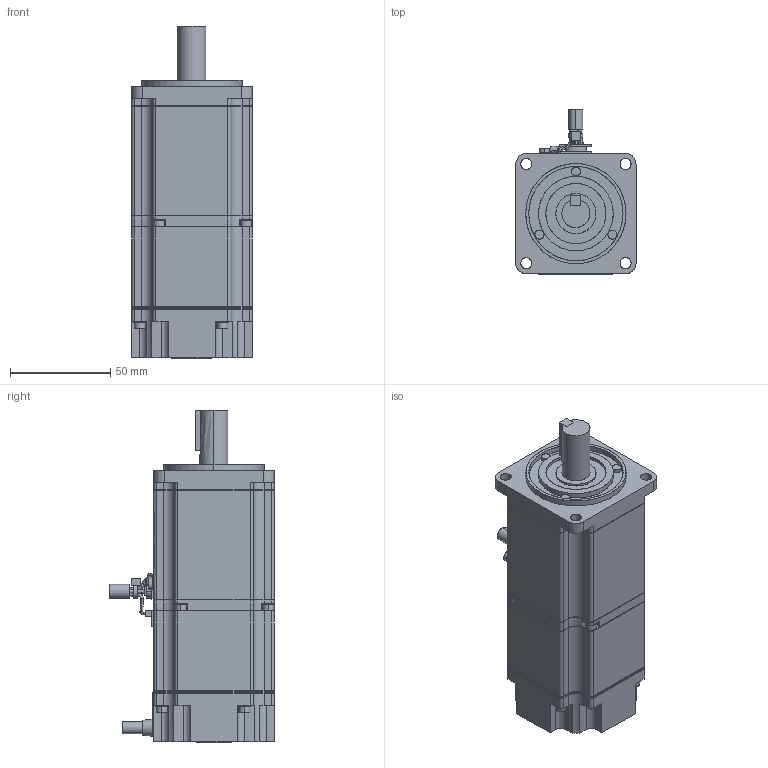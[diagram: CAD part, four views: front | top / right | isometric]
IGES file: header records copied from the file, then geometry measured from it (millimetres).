
Start section: SolidWorks IGES file using analytic representation for surfaces
Global section: file name: D:\YASKAWA\sjme_02amb4c.IGS; native system: SolidWorks 2006 by SolidWorks Corporation; preprocessor: SolidWorks 2006 by SolidWorks Corporation; author: yamanouchi; date: 111109.083811; units: millimetre
Bounding box: 60.1 x 81.9 x 165.6 mm (x, y, z)
Surface area: 43709.6 mm2 (no closed solid volume)
Topology: 0 solids, 0 shells, 562 faces, 8244 edges, 8244 vertices
Faces by surface type: bspline 326, revolution 236
